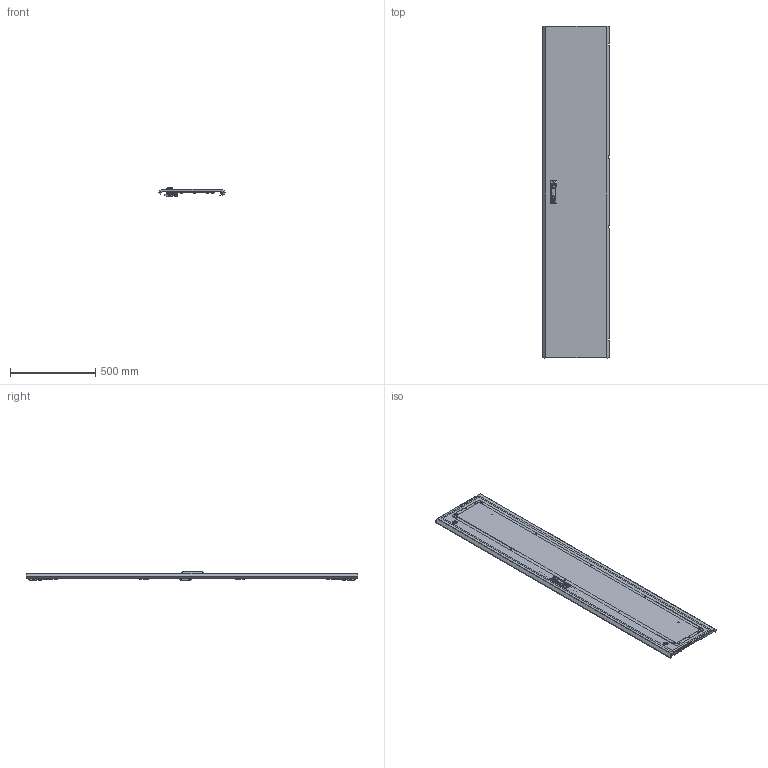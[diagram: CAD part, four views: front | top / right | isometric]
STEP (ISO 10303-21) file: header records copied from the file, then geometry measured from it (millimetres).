
FILE_DESCRIPTION (( 'STEP AP203' ), '1' );
FILE_NAME ('MA1.200.040620.30.00 AleSta-D20M400 Äâåðü ñïëîøíàÿ äëÿ øêàôîâ ALESTA ÂõØ 2000õ400.STEP', '2025-02-19T14:09:28', ( '' ), ( '' ), 'SwSTEP 2.0', 'SolidWorks 2021', '' );
FILE_SCHEMA (( 'CONFIG_CONTROL_DESIGN' ));
Length unit declared in the file: millimetre
Products named in the file (23): Íàâåñêà íà êîðïóñ ïîä êëåïêó; MA1.200.060620.31.02 Ðåéêà íà äâåðü âåðòèêàëüíàÿ Â = 2000_‚ =2000; Óïëîòíèòåëü ïàíåëè íèæíåé_  ‚=2000; Ãàéêà ñàìîêîíòðÿùàÿñÿ ñ íåéëîíîâîé âñòàâêîé Ì6 DIN 985, êëàññ ïðî÷íîñòè 8, îöèíêîâàííàÿ ñòàëü_Œ6; Øïèëüêà Ì6õ12_˜¯¨«ìª  Œ6å20; Áîëò øåñòèãðàííûé Ì5õ12 DIN 933, êëàññ ïðî÷íîñòè 8.8, îöèíêîâàííàÿ ñòàëü; MA1.200.060620.31.05 Óãëîâîé óïîð äâåðíîé òÿãè; äåðæàòåëü_êðóãëîé_òÿãèRG002-RG1010-2-i-RG1010-3-.stp; MA1.200.060620.31.01 Ïîëîòíî äâåðè ñïëîøíîé 2000õ600_2000å400; Îñü ïåòëè 4õ52_‚¨­â A.M4x0,5x40 ƒŽ‘’ 11644-75; Øïèëüêà Ì6õ12_˜¯¨«ìª  Œ6å16; òÿãà_lg001-2.STEP_‚=2000; MS463-2-3(1); Âèíò ñàìîíàðåçàþùèé ñ ïîòàéíîé ãîëîâêîé Ì5x16 DIN 7500 M TORX, êëàññ ïðî÷íîñòè 8.8, îöèíêîâàííàÿ ñòàëü_Œ5å16; MA1.200.060620.31.06 赶鎀鍧_100 洵; Ãàéêà ñàìîêîíòðÿùàÿñÿ ñ íåéëîíîâîé âñòàâêîé Ì6 DIN 985, êëàññ ïðî÷íîñòè 8, îöèíêîâàííàÿ ñòàëü_Œ5; Âèíò_ðåçüáîâûäàâëèâàþùèé_Ì5õ12_DIN 7500E_Œ5å12; êðåïëåíèå_êðóãëîé_òÿãè_RG1020-1.stp; MA1.200.060620.31.00 Äâåðü ñïëîøíàÿ äëÿ øêàôîâ ALESTA ÂõØ 2000õ600_2000å400; 諘蜱齁罻 022 瀁錒瀔隮; MA1.200.060620.31.04 需沐朦_惃％; MA1.200.040620.30.00 AleSta-D20M400 Äâåðü ñïëîøíàÿ äëÿ øêàôîâ ALESTA ÂõØ 2000õ400; MA1.200.060620.31.03 Ðåéêà íà äâåðü ãîðèçîíòàëüíàÿ Ø = 600_˜=400
Assembly tree (84 placements, depth 3):
  MA1.200.040620.30.00 AleSta-D20M400 Äâåðü ñïëîøíàÿ äëÿ øêàôîâ ALESTA ÂõØ 2000õ400
    MA1.200.060620.31.00 Äâåðü ñïëîøíàÿ äëÿ øêàôîâ ALESTA ÂõØ 2000õ600_2000å400
      MA1.200.060620.31.01 Ïîëîòíî äâåðè ñïëîøíîé 2000õ600_2000å400
      Óïëîòíèòåëü ïàíåëè íèæíåé_  ‚=2000
      Øïèëüêà Ì6õ12_˜¯¨«ìª  Œ6å20  x16
      Øïèëüêà Ì6õ12_˜¯¨«ìª  Œ6å16  x4
    MA1.200.060620.31.03 Ðåéêà íà äâåðü ãîðèçîíòàëüíàÿ Ø = 600_˜=400  x2
    諘蜱齁罻 022 瀁錒瀔隮  x4
    MA1.200.060620.31.02 Ðåéêà íà äâåðü âåðòèêàëüíàÿ Â = 2000_‚ =2000  x2
    äåðæàòåëü_êðóãëîé_òÿãèRG002-RG1010-2-i-RG1010-3-.stp  x2
    òÿãà_lg001-2.STEP_‚=2000  x2
    êðåïëåíèå_êðóãëîé_òÿãè_RG1020-1.stp  x2
    MS463-2-3(1)
    Ãàéêà ñàìîêîíòðÿùàÿñÿ ñ íåéëîíîâîé âñòàâêîé Ì6 DIN 985, êëàññ ïðî÷íîñòè 8, îöèíêîâàííàÿ ñòàëü_Œ6  x16
    Ãàéêà ñàìîêîíòðÿùàÿñÿ ñ íåéëîíîâîé âñòàâêîé Ì6 DIN 985, êëàññ ïðî÷íîñòè 8, îöèíêîâàííàÿ ñòàëü_Œ5  x2
    Áîëò øåñòèãðàííûé Ì5õ12 DIN 933, êëàññ ïðî÷íîñòè 8.8, îöèíêîâàííàÿ ñòàëü  x2
    MA1.200.060620.31.05 Óãëîâîé óïîð äâåðíîé òÿãè  x2
    Âèíò_ðåçüáîâûäàâëèâàþùèé_Ì5õ12_DIN 7500E_Œ5å12  x6
    Íàâåñêà íà êîðïóñ ïîä êëåïêó  x4
    Îñü ïåòëè 4õ52_‚¨­â A.M4x0,5x40 ƒŽ‘’ 11644-75  x4
    Âèíò ñàìîíàðåçàþùèé ñ ïîòàéíîé ãîëîâêîé Ì5x16 DIN 7500 M TORX, êëàññ ïðî÷íîñòè 8.8, îöèíêîâàííàÿ ñòàëü_Œ5å16  x8
    MA1.200.060620.31.04 需沐朦_惃％
    MA1.200.060620.31.06 赶鎀鍧_100 洵
Bounding box: 391.81 x 1945 x 55.29 mm (x, y, z)
Volume: 2046806.6 mm3; surface area: 2432439.1 mm2
Topology: 118 solids, 132 shells, 6069 faces, 15048 edges, 9164 vertices
Faces by surface type: plane 2445, cylinder 2407, bspline 661, cone 261, torus 197, sphere 98
Entity records: 138994 total; most frequent: CARTESIAN_POINT 58732, ORIENTED_EDGE 16218, DIRECTION 15225, EDGE_CURVE 8126, AXIS2_PLACEMENT_3D 5435, VERTEX_POINT 5076, LINE 4355, VECTOR 4355
